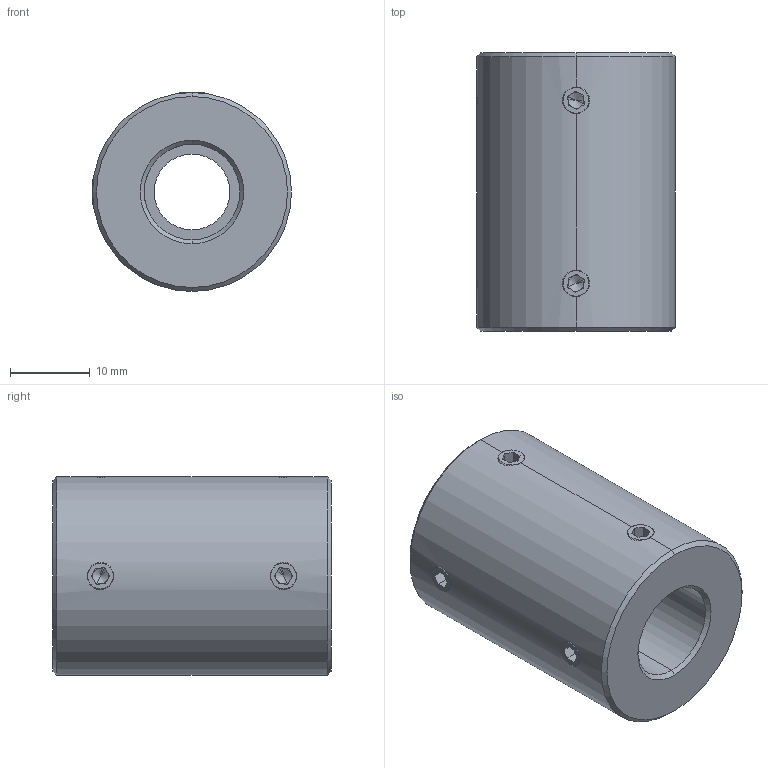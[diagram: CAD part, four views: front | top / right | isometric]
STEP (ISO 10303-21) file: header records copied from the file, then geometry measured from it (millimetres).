
FILE_DESCRIPTION (( 'STEP AP214' ), '1' );
FILE_NAME ('LL-D-D25L35-9.525-12½¨Ä£.STEP', '2022-07-23T00:43:13', ( '' ), ( '' ), 'SwSTEP 2.0', 'SolidWorks 2022', '' );
FILE_SCHEMA (( 'AUTOMOTIVE_DESIGN' ));
Length unit declared in the file: millimetre
Products named in the file (1): LL-D-D25L35-9.525-12膘耀
Bounding box: 25 x 35 x 25 mm (x, y, z)
Volume: 13790.8 mm3; surface area: 4907.6 mm2
Topology: 1 solids, 1 shells, 113 faces, 286 edges, 176 vertices
Faces by surface type: plane 59, cone 32, cylinder 22
Entity records: 3722 total; most frequent: CARTESIAN_POINT 1012, DIRECTION 558, ORIENTED_EDGE 556, EDGE_CURVE 278, AXIS2_PLACEMENT_3D 206, VERTEX_POINT 176, VECTOR 146, LINE 146
